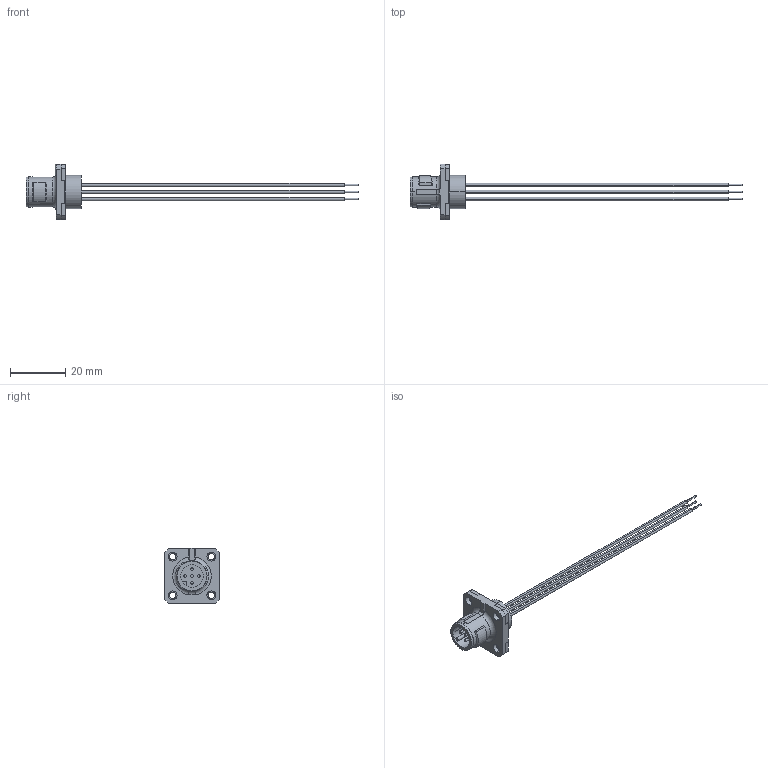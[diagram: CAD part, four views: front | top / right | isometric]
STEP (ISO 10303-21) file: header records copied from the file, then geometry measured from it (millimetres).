
FILE_DESCRIPTION(('SolidDesigner STEP Export'),'2;1');
FILE_NAME('1441642_SACC_SQ_M12MS_5CON_20_0.5-select.stp','2013-05-29T10:38:00',(''),(''),'Creo Elements/Direct Modeling STEP processor for AP214 (Solid Model)','Creo Elements/Direct Modeling 18.1 06-May-2012 (C) Parametric Technology GmbH','');
FILE_SCHEMA(('AUTOMOTIVE_DESIGN { 1 0 10303 214 1 1 1 1 }'));
Length unit declared in the file: millimetre
Products named in the file (2): 1441642_SACC_SQ_M12MS_5CON_20_0.5-select
Assembly tree (1 placements, depth 2):
  1441642_SACC_SQ_M12MS_5CON_20_0.5-select
    1441642_SACC_SQ_M12MS_5CON_20_0.5-select
Bounding box: 120 x 20 x 20 mm (x, y, z)
Volume: 3068.5 mm3; surface area: 4086.5 mm2
Topology: 1 solids, 1 shells, 160 faces, 388 edges, 256 vertices
Faces by surface type: cylinder 90, plane 62, bspline 4, torus 2, cone 2
Entity records: 6178 total; most frequent: CARTESIAN_POINT 1171, ORIENTED_EDGE 776, DIRECTION 745, EDGE_CURVE 388, AXIS2_PLACEMENT_3D 285, VERTEX_POINT 256, EDGE_LOOP 194, VECTOR 175
